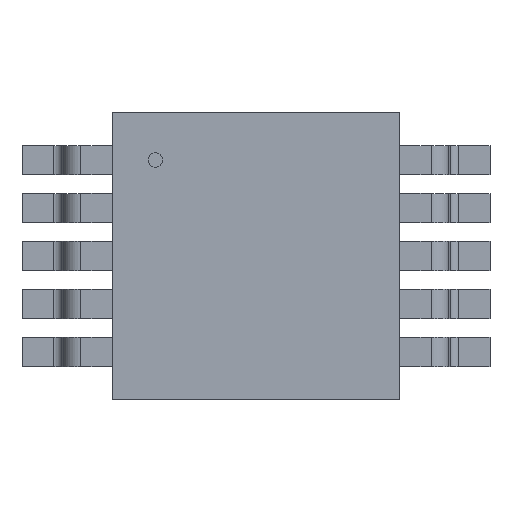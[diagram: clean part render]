
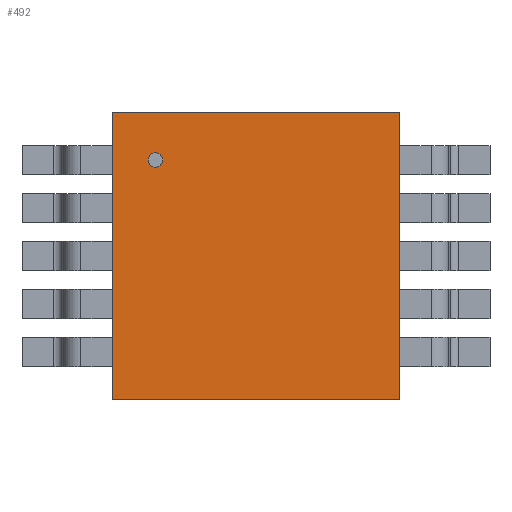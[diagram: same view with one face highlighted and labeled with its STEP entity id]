
A CAD part, top view. The second image highlights one B-rep face of the part: STEP entity #492.
In plain terms, the highlighted planar face has unit normal (0, 0, 1).
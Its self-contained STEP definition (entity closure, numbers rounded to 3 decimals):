
#268=CARTESIAN_POINT('',(1.499,-1.499,1.016));
#267=VERTEX_POINT('',#268);
#278=CARTESIAN_POINT('',(-1.499,-1.499,1.016));
#277=VERTEX_POINT('',#278);
#276=EDGE_CURVE('',#277,#267,#281,.T.);
#281=LINE('',#278,#283);
#283=VECTOR('',#284,2.997);
#284=DIRECTION('',(1.0,0.0,0.0));
#317=CARTESIAN_POINT('',(1.499,1.499,1.016));
#316=VERTEX_POINT('',#317);
#325=EDGE_CURVE('',#267,#316,#330,.T.);
#330=LINE('',#268,#332);
#332=VECTOR('',#333,2.997);
#333=DIRECTION('',(0.0,1.0,0.0));
#366=CARTESIAN_POINT('',(-1.499,1.499,1.016));
#365=VERTEX_POINT('',#366);
#374=EDGE_CURVE('',#316,#365,#379,.T.);
#379=LINE('',#317,#381);
#381=VECTOR('',#382,2.997);
#382=DIRECTION('',(-1.0,0.0,0.0));
#423=EDGE_CURVE('',#365,#277,#428,.T.);
#428=LINE('',#366,#430);
#430=VECTOR('',#431,2.997);
#431=DIRECTION('',(0.0,-1.0,0.0));
#492=ADVANCED_FACE('',(#498),#493,.T.);
#493=PLANE('',#494);
#494=AXIS2_PLACEMENT_3D('',#495,#496,#497);
#495=CARTESIAN_POINT('',(-1.499,-1.499,1.016));
#496=DIRECTION('',(0.0,0.0,1.0));
#497=DIRECTION('',(0.,1.,0.));
#498=FACE_OUTER_BOUND('',#499,.T.);
#499=EDGE_LOOP('',(#500,#510,#520,#530));
#500=ORIENTED_EDGE('',*,*,#276,.T.);
#510=ORIENTED_EDGE('',*,*,#325,.T.);
#520=ORIENTED_EDGE('',*,*,#374,.T.);
#530=ORIENTED_EDGE('',*,*,#423,.T.);
